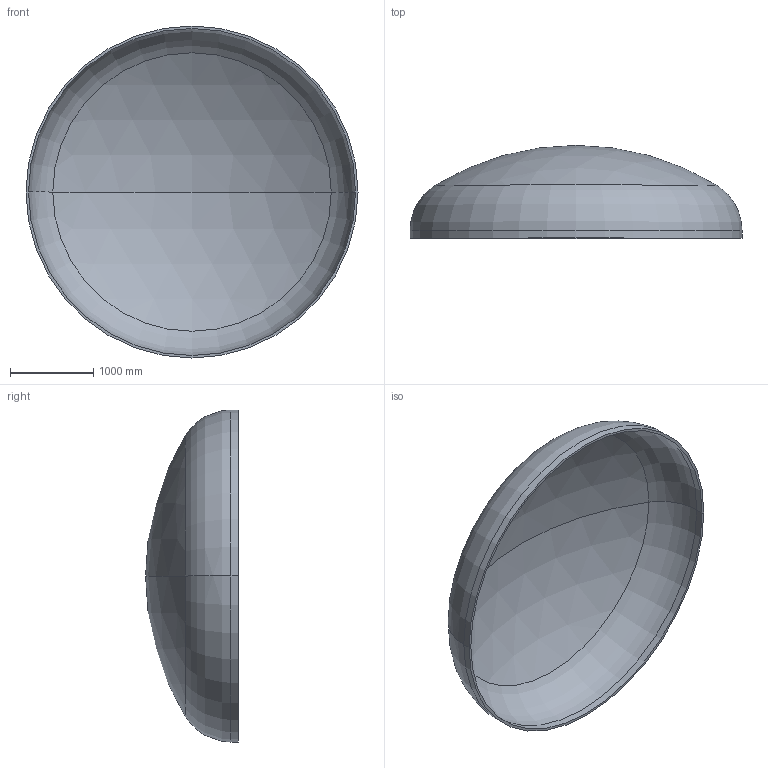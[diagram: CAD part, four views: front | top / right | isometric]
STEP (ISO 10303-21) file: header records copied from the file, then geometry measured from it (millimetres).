
FILE_DESCRIPTION (( 'STEP AP203' ), '1' );
FILE_NAME ('DIN 28013 Korbbogenform_-_Boden DIN 28013 - 4000 x 90 - I - s=30.step', '2016-07-01T22:15:07', ( '' ), ( '' ), 'SwSTEP 2.0', 'SolidWorks 2013', '' );
FILE_SCHEMA (( 'CONFIG_CONTROL_DESIGN' ));
Length unit declared in the file: millimetre
Products named in the file (1): DIN 28013 Korbbogenform_-_Boden DIN 28013 - 4000 x 90 - I - s=30
Bounding box: 4000 x 1118.59 x 4000 mm (x, y, z)
Volume: 550490273.5 mm3; surface area: 37075386.2 mm2
Topology: 1 solids, 1 shells, 13 faces, 24 edges, 14 vertices
Faces by surface type: torus 4, cylinder 4, sphere 4, plane 1
Entity records: 407 total; most frequent: DIRECTION 72, CARTESIAN_POINT 52, ORIENTED_EDGE 48, AXIS2_PLACEMENT_3D 34, EDGE_CURVE 24, CIRCLE 20, EDGE_LOOP 14, VERTEX_POINT 14
